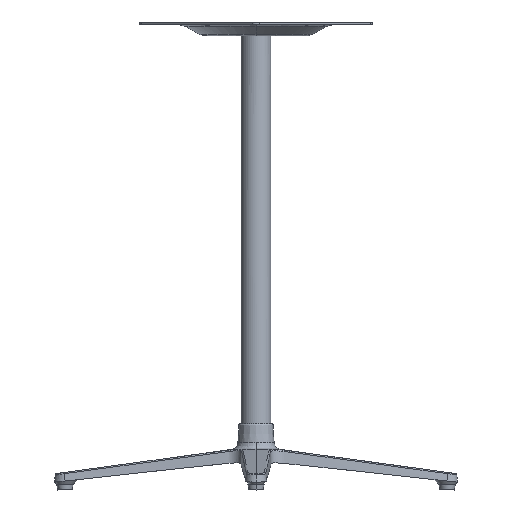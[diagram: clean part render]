
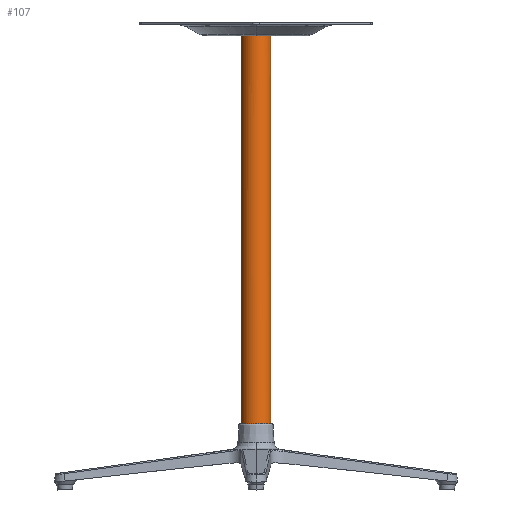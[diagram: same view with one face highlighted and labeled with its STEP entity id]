
A CAD part, left-side view. The second image highlights one B-rep face of the part: STEP entity #107.
In plain terms, the highlighted free-form (B-spline) face has degree [2, 1] with [9, 2] control points.
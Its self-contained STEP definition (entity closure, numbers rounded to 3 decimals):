
#107=ADVANCED_FACE('',(#290),#2753,.T.);
#290=FACE_OUTER_BOUND('',#475,.T.);
#475=EDGE_LOOP('',(#828,#829,#830,#831,#832));
#828=ORIENTED_EDGE('',*,*,#1755,.F.);
#829=ORIENTED_EDGE('',*,*,#1631,.T.);
#830=ORIENTED_EDGE('',*,*,#1635,.F.);
#831=ORIENTED_EDGE('',*,*,#1634,.F.);
#832=ORIENTED_EDGE('',*,*,#1630,.T.);
#1630=EDGE_CURVE('',#2474,#2554,#2211,.T.);
#1631=EDGE_CURVE('',#2475,#2477,#2212,.T.);
#1634=EDGE_CURVE('',#2474,#2476,#2215,.T.);
#1635=EDGE_CURVE('',#2476,#2477,#2216,.T.);
#1755=EDGE_CURVE('',#2475,#2554,#2237,.T.);
#2211=(
BOUNDED_CURVE()
B_SPLINE_CURVE(2,(#9404,#9405,#9406),.UNSPECIFIED.,.F.,.F.)
B_SPLINE_CURVE_WITH_KNOTS((3,3),(0.,42.7),.UNSPECIFIED.)
CURVE()
GEOMETRIC_REPRESENTATION_ITEM()
RATIONAL_B_SPLINE_CURVE((1.,0.707,1.))
REPRESENTATION_ITEM('')
);
#2212=(
BOUNDED_CURVE()
B_SPLINE_CURVE(1,(#9407,#9408),.UNSPECIFIED.,.F.,.F.)
B_SPLINE_CURVE_WITH_KNOTS((2,2),(55.64,610.84),
 .UNSPECIFIED.)
CURVE()
GEOMETRIC_REPRESENTATION_ITEM()
RATIONAL_B_SPLINE_CURVE((1.,1.))
REPRESENTATION_ITEM('')
);
#2215=(
BOUNDED_CURVE()
B_SPLINE_CURVE(1,(#9415,#9416),.UNSPECIFIED.,.F.,.F.)
B_SPLINE_CURVE_WITH_KNOTS((2,2),(0.,555.2),.UNSPECIFIED.)
CURVE()
GEOMETRIC_REPRESENTATION_ITEM()
RATIONAL_B_SPLINE_CURVE((1.,1.))
REPRESENTATION_ITEM('')
);
#2216=(
BOUNDED_CURVE()
B_SPLINE_CURVE(2,(#9417,#9418,#9419,#9420,#9421,#9422,#9423),
 .UNSPECIFIED.,.F.,.F.)
B_SPLINE_CURVE_WITH_KNOTS((3,2,2,3),(-85.4,-42.7,
0.,42.7),.UNSPECIFIED.)
CURVE()
GEOMETRIC_REPRESENTATION_ITEM()
RATIONAL_B_SPLINE_CURVE((1.,0.707,1.,0.707,1.,0.707,
1.))
REPRESENTATION_ITEM('')
);
#2237=(
BOUNDED_CURVE()
B_SPLINE_CURVE(2,(#11326,#11327,#11328,#11329,#11330),.UNSPECIFIED.,.F.,
 .F.)
B_SPLINE_CURVE_WITH_KNOTS((3,2,3),(-42.7,0.,42.7),
 .UNSPECIFIED.)
CURVE()
GEOMETRIC_REPRESENTATION_ITEM()
RATIONAL_B_SPLINE_CURVE((1.,0.707,1.,0.707,1.))
REPRESENTATION_ITEM('')
);
#2474=VERTEX_POINT('',#8808);
#2475=VERTEX_POINT('',#8809);
#2476=VERTEX_POINT('',#8810);
#2477=VERTEX_POINT('',#8811);
#2554=VERTEX_POINT('',#8888);
#2753=(
BOUNDED_SURFACE()
B_SPLINE_SURFACE(2,1,((#3471,#3472),(#3473,#3474),(#3475,#3476),(#3477,
#3478),(#3479,#3480),(#3481,#3482),(#3483,#3484),(#3485,#3486),(#3487,#3488)),
 .UNSPECIFIED.,.T.,.F.,.F.)
B_SPLINE_SURFACE_WITH_KNOTS((3,2,2,2,3),(2,2),(0.,33.537,67.073,
100.61,134.146),(0.,666.48),.UNSPECIFIED.)
GEOMETRIC_REPRESENTATION_ITEM()
RATIONAL_B_SPLINE_SURFACE(((1.,1.),(0.707,0.707),
(1.,1.),(0.707,0.707),(1.,1.),(0.707,
0.707),(1.,1.),(0.707,0.707),(1.,1.)))
REPRESENTATION_ITEM('')
SURFACE()
);
#3471=CARTESIAN_POINT('',(0.,-21.35,39.16));
#3472=CARTESIAN_POINT('',(0.,-21.35,705.64));
#3473=CARTESIAN_POINT('',(21.35,-21.35,39.16));
#3474=CARTESIAN_POINT('',(21.35,-21.35,705.64));
#3475=CARTESIAN_POINT('',(21.35,0.,39.16));
#3476=CARTESIAN_POINT('',(21.35,0.,705.64));
#3477=CARTESIAN_POINT('',(21.35,21.35,39.16));
#3478=CARTESIAN_POINT('',(21.35,21.35,705.64));
#3479=CARTESIAN_POINT('',(0.,21.35,39.16));
#3480=CARTESIAN_POINT('',(0.,21.35,705.64));
#3481=CARTESIAN_POINT('',(-21.35,21.35,39.16));
#3482=CARTESIAN_POINT('',(-21.35,21.35,705.64));
#3483=CARTESIAN_POINT('',(-21.35,0.,39.16));
#3484=CARTESIAN_POINT('',(-21.35,0.,705.64));
#3485=CARTESIAN_POINT('',(-21.35,-21.35,39.16));
#3486=CARTESIAN_POINT('',(-21.35,-21.35,705.64));
#3487=CARTESIAN_POINT('',(0.,-21.35,39.16));
#3488=CARTESIAN_POINT('',(0.,-21.35,705.64));
#8808=CARTESIAN_POINT('',(21.35,0.,94.8));
#8809=CARTESIAN_POINT('',(0.,-21.35,94.8));
#8810=CARTESIAN_POINT('',(21.35,0.,650.));
#8811=CARTESIAN_POINT('',(0.,-21.35,650.));
#8888=CARTESIAN_POINT('',(0.,21.35,94.8));
#9404=CARTESIAN_POINT('',(21.35,0.,94.8));
#9405=CARTESIAN_POINT('',(21.35,21.35,94.8));
#9406=CARTESIAN_POINT('',(0.,21.35,94.8));
#9407=CARTESIAN_POINT('',(0.,-21.35,94.8));
#9408=CARTESIAN_POINT('',(0.,-21.35,650.));
#9415=CARTESIAN_POINT('',(21.35,0.,94.8));
#9416=CARTESIAN_POINT('',(21.35,0.,650.));
#9417=CARTESIAN_POINT('',(21.35,0.,650.));
#9418=CARTESIAN_POINT('',(21.35,21.35,650.));
#9419=CARTESIAN_POINT('',(0.,21.35,650.));
#9420=CARTESIAN_POINT('',(-21.35,21.35,650.));
#9421=CARTESIAN_POINT('',(-21.35,0.,650.));
#9422=CARTESIAN_POINT('',(-21.35,-21.35,650.));
#9423=CARTESIAN_POINT('',(0.,-21.35,650.));
#11326=CARTESIAN_POINT('',(0.,-21.35,94.8));
#11327=CARTESIAN_POINT('',(-21.35,-21.35,94.8));
#11328=CARTESIAN_POINT('',(-21.35,0.,94.8));
#11329=CARTESIAN_POINT('',(-21.35,21.35,94.8));
#11330=CARTESIAN_POINT('',(0.,21.35,94.8));
